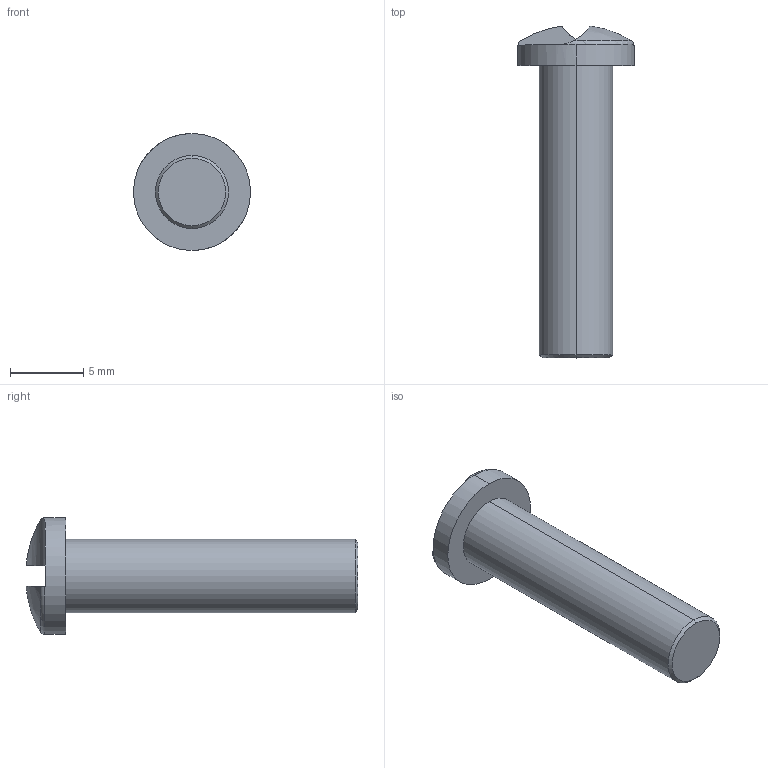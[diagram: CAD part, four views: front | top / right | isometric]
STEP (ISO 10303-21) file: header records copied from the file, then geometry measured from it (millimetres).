
FILE_DESCRIPTION (( 'STEP AP203' ), '1' );
FILE_NAME ('5955.STEP', '2017-09-21T09:02:31', ( 'utente' ), ( 'Microsoft' ), 'SwSTEP 2.0', 'SolidWorks 2014', '' );
FILE_SCHEMA (( 'CONFIG_CONTROL_DESIGN' ));
Length unit declared in the file: millimetre
Products named in the file (1): 5955
Bounding box: 8 x 22.7 x 8 mm (x, y, z)
Volume: 477.1 mm3; surface area: 460.7 mm2
Topology: 1 solids, 1 shells, 18 faces, 42 edges, 27 vertices
Faces by surface type: cylinder 6, plane 5, torus 3, cone 2, sphere 2
Entity records: 633 total; most frequent: CARTESIAN_POINT 136, DIRECTION 94, ORIENTED_EDGE 84, EDGE_CURVE 42, AXIS2_PLACEMENT_3D 41, VERTEX_POINT 27, CIRCLE 22, EDGE_LOOP 19
